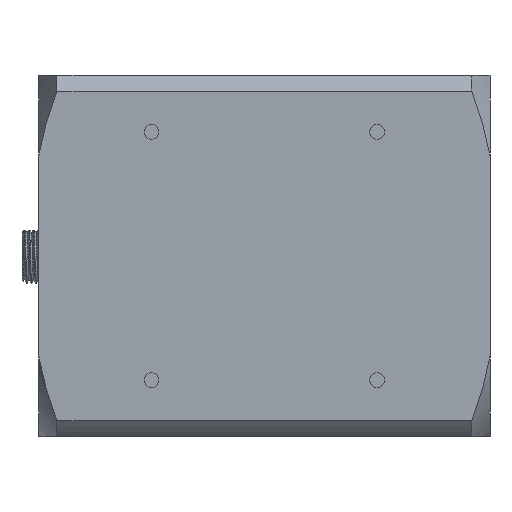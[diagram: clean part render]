
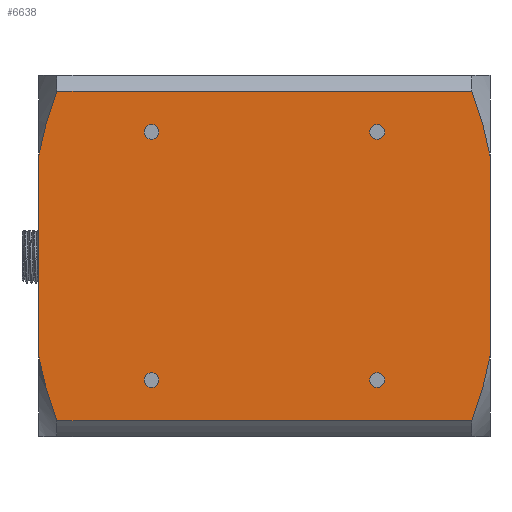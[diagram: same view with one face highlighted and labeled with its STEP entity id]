
A CAD part, front view. The second image highlights one B-rep face of the part: STEP entity #6638.
In plain terms, the highlighted planar face has unit normal (0, -1, 0).
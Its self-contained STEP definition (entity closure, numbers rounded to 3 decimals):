
#371=B_SPLINE_CURVE_WITH_KNOTS('',3,(#28335,#28336,#28337,#28338),
 .UNSPECIFIED.,.F.,.F.,(4,4),(0.,1.),.UNSPECIFIED.);
#381=B_SPLINE_CURVE_WITH_KNOTS('',3,(#28447,#28448,#28449,#28450),
 .UNSPECIFIED.,.F.,.F.,(4,4),(0.,1.),.UNSPECIFIED.);
#383=B_SPLINE_CURVE_WITH_KNOTS('',3,(#28473,#28474,#28475,#28476),
 .UNSPECIFIED.,.F.,.F.,(4,4),(0.,1.),.UNSPECIFIED.);
#386=B_SPLINE_CURVE_WITH_KNOTS('',3,(#28537,#28538,#28539,#28540),
 .UNSPECIFIED.,.F.,.F.,(4,4),(0.,1.),.UNSPECIFIED.);
#2943=LINE('',#28454,#4579);
#2945=LINE('',#28471,#4581);
#2947=LINE('',#28486,#4583);
#2949=LINE('',#28494,#4585);
#4579=VECTOR('',#22656,1.);
#4581=VECTOR('',#22670,1.);
#4583=VECTOR('',#22678,1.);
#4585=VECTOR('',#22688,1.);
#6638=ADVANCED_FACE('',(#8136,#8137,#8138,#8139,#8140),#7583,.T.);
#7583=PLANE('',#20677);
#8136=FACE_BOUND('',#8589,.T.);
#8137=FACE_BOUND('',#8590,.T.);
#8138=FACE_BOUND('',#8591,.T.);
#8139=FACE_BOUND('',#8592,.T.);
#8140=FACE_BOUND('',#8593,.T.);
#8589=EDGE_LOOP('',(#10603,#10604));
#8590=EDGE_LOOP('',(#10605,#10606));
#8591=EDGE_LOOP('',(#10607,#10608));
#8592=EDGE_LOOP('',(#10609,#10610));
#8593=EDGE_LOOP('',(#10611,#10612,#10613,#10614,#10615,#10616,#10617,#10618));
#10603=ORIENTED_EDGE('',*,*,#17494,.T.);
#10604=ORIENTED_EDGE('',*,*,#17492,.T.);
#10605=ORIENTED_EDGE('',*,*,#17490,.T.);
#10606=ORIENTED_EDGE('',*,*,#17488,.T.);
#10607=ORIENTED_EDGE('',*,*,#17486,.T.);
#10608=ORIENTED_EDGE('',*,*,#17484,.T.);
#10609=ORIENTED_EDGE('',*,*,#17482,.T.);
#10610=ORIENTED_EDGE('',*,*,#17480,.T.);
#10611=ORIENTED_EDGE('',*,*,#17475,.F.);
#10612=ORIENTED_EDGE('',*,*,#17495,.T.);
#10613=ORIENTED_EDGE('',*,*,#17458,.F.);
#10614=ORIENTED_EDGE('',*,*,#17456,.F.);
#10615=ORIENTED_EDGE('',*,*,#17465,.T.);
#10616=ORIENTED_EDGE('',*,*,#17466,.F.);
#10617=ORIENTED_EDGE('',*,*,#17470,.F.);
#10618=ORIENTED_EDGE('',*,*,#17420,.T.);
#15406=VERTEX_POINT('',#28339);
#15407=VERTEX_POINT('',#28340);
#15438=VERTEX_POINT('',#28446);
#15439=VERTEX_POINT('',#28451);
#15440=VERTEX_POINT('',#28455);
#15444=VERTEX_POINT('',#28470);
#15445=VERTEX_POINT('',#28477);
#15448=VERTEX_POINT('',#28493);
#15450=VERTEX_POINT('',#28506);
#15451=VERTEX_POINT('',#28508);
#15452=VERTEX_POINT('',#28514);
#15453=VERTEX_POINT('',#28516);
#15454=VERTEX_POINT('',#28522);
#15455=VERTEX_POINT('',#28524);
#15456=VERTEX_POINT('',#28530);
#15457=VERTEX_POINT('',#28532);
#17420=EDGE_CURVE('',#15406,#15407,#371,.T.);
#17456=EDGE_CURVE('',#15438,#15439,#381,.T.);
#17458=EDGE_CURVE('',#15439,#15440,#2943,.T.);
#17465=EDGE_CURVE('',#15438,#15444,#2945,.T.);
#17466=EDGE_CURVE('',#15445,#15444,#383,.T.);
#17470=EDGE_CURVE('',#15406,#15445,#2947,.T.);
#17475=EDGE_CURVE('',#15448,#15407,#2949,.T.);
#17480=EDGE_CURVE('',#15451,#15450,#19927,.T.);
#17482=EDGE_CURVE('',#15450,#15451,#19928,.T.);
#17484=EDGE_CURVE('',#15453,#15452,#19929,.T.);
#17486=EDGE_CURVE('',#15452,#15453,#19930,.T.);
#17488=EDGE_CURVE('',#15455,#15454,#19931,.T.);
#17490=EDGE_CURVE('',#15454,#15455,#19932,.T.);
#17492=EDGE_CURVE('',#15457,#15456,#19933,.T.);
#17494=EDGE_CURVE('',#15456,#15457,#19934,.T.);
#17495=EDGE_CURVE('',#15448,#15440,#386,.T.);
#19927=CIRCLE('',#20661,1.65);
#19928=CIRCLE('',#20663,1.65);
#19929=CIRCLE('',#20665,1.65);
#19930=CIRCLE('',#20667,1.65);
#19931=CIRCLE('',#20669,1.65);
#19932=CIRCLE('',#20671,1.65);
#19933=CIRCLE('',#20673,1.65);
#19934=CIRCLE('',#20675,1.65);
#20661=AXIS2_PLACEMENT_3D('',#28507,#22699,#22700);
#20663=AXIS2_PLACEMENT_3D('',#28511,#22704,#22705);
#20665=AXIS2_PLACEMENT_3D('',#28515,#22709,#22710);
#20667=AXIS2_PLACEMENT_3D('',#28519,#22714,#22715);
#20669=AXIS2_PLACEMENT_3D('',#28523,#22719,#22720);
#20671=AXIS2_PLACEMENT_3D('',#28527,#22724,#22725);
#20673=AXIS2_PLACEMENT_3D('',#28531,#22729,#22730);
#20675=AXIS2_PLACEMENT_3D('',#28535,#22734,#22735);
#20677=AXIS2_PLACEMENT_3D('',#28541,#22738,#22739);
#22656=DIRECTION('',(1.,0.,0.));
#22670=DIRECTION('',(0.,0.,-1.));
#22678=DIRECTION('',(-1.,0.,0.));
#22688=DIRECTION('',(0.,0.,-1.));
#22699=DIRECTION('',(0.,1.,0.));
#22700=DIRECTION('',(0.,0.,1.));
#22704=DIRECTION('',(0.,1.,0.));
#22705=DIRECTION('',(0.,0.,-1.));
#22709=DIRECTION('',(0.,1.,0.));
#22710=DIRECTION('',(0.,0.,1.));
#22714=DIRECTION('',(0.,1.,0.));
#22715=DIRECTION('',(0.,0.,-1.));
#22719=DIRECTION('',(0.,1.,0.));
#22720=DIRECTION('',(0.,0.,1.));
#22724=DIRECTION('',(0.,1.,0.));
#22725=DIRECTION('',(0.,0.,-1.));
#22729=DIRECTION('',(0.,1.,0.));
#22730=DIRECTION('',(0.,0.,1.));
#22734=DIRECTION('',(0.,1.,0.));
#22735=DIRECTION('',(0.,0.,-1.));
#22738=DIRECTION('',(0.,-1.,0.));
#22739=DIRECTION('',(0.,0.,1.));
#28335=CARTESIAN_POINT('',(90.959,-74.49,43.959));
#28336=CARTESIAN_POINT('',(92.723,-74.49,48.642));
#28337=CARTESIAN_POINT('',(94.214,-74.49,53.401));
#28338=CARTESIAN_POINT('',(95.,-74.49,58.359));
#28339=CARTESIAN_POINT('',(90.959,-74.49,43.959));
#28340=CARTESIAN_POINT('',(95.,-74.49,58.359));
#28446=CARTESIAN_POINT('',(-5.,-74.49,102.641));
#28447=CARTESIAN_POINT('',(-5.,-74.49,102.641));
#28448=CARTESIAN_POINT('',(-4.214,-74.49,107.599));
#28449=CARTESIAN_POINT('',(-2.723,-74.49,112.358));
#28450=CARTESIAN_POINT('',(-0.959,-74.49,117.041));
#28451=CARTESIAN_POINT('',(-0.959,-74.49,117.041));
#28454=CARTESIAN_POINT('',(-5.,-74.49,117.041));
#28455=CARTESIAN_POINT('',(90.959,-74.49,117.041));
#28470=CARTESIAN_POINT('',(-5.,-74.49,58.359));
#28471=CARTESIAN_POINT('',(-5.,-74.49,102.041));
#28473=CARTESIAN_POINT('',(-0.959,-74.49,43.959));
#28474=CARTESIAN_POINT('',(-2.723,-74.49,48.642));
#28475=CARTESIAN_POINT('',(-4.214,-74.49,53.401));
#28476=CARTESIAN_POINT('',(-5.,-74.49,58.359));
#28477=CARTESIAN_POINT('',(-0.959,-74.49,43.959));
#28486=CARTESIAN_POINT('',(95.,-74.49,43.959));
#28493=CARTESIAN_POINT('',(95.,-74.49,102.641));
#28494=CARTESIAN_POINT('',(95.,-74.49,102.041));
#28506=CARTESIAN_POINT('',(20.,-74.49,106.35));
#28507=CARTESIAN_POINT('',(20.,-74.49,108.));
#28508=CARTESIAN_POINT('',(20.,-74.49,109.65));
#28511=CARTESIAN_POINT('',(20.,-74.49,108.));
#28514=CARTESIAN_POINT('',(70.,-74.49,51.35));
#28515=CARTESIAN_POINT('',(70.,-74.49,53.));
#28516=CARTESIAN_POINT('',(70.,-74.49,54.65));
#28519=CARTESIAN_POINT('',(70.,-74.49,53.));
#28522=CARTESIAN_POINT('',(20.,-74.49,51.35));
#28523=CARTESIAN_POINT('',(20.,-74.49,53.));
#28524=CARTESIAN_POINT('',(20.,-74.49,54.65));
#28527=CARTESIAN_POINT('',(20.,-74.49,53.));
#28530=CARTESIAN_POINT('',(70.,-74.49,106.35));
#28531=CARTESIAN_POINT('',(70.,-74.49,108.));
#28532=CARTESIAN_POINT('',(70.,-74.49,109.65));
#28535=CARTESIAN_POINT('',(70.,-74.49,108.));
#28537=CARTESIAN_POINT('',(95.,-74.49,102.641));
#28538=CARTESIAN_POINT('',(94.214,-74.49,107.599));
#28539=CARTESIAN_POINT('',(92.723,-74.49,112.358));
#28540=CARTESIAN_POINT('',(90.959,-74.49,117.041));
#28541=CARTESIAN_POINT('',(95.,-74.49,55.5));
